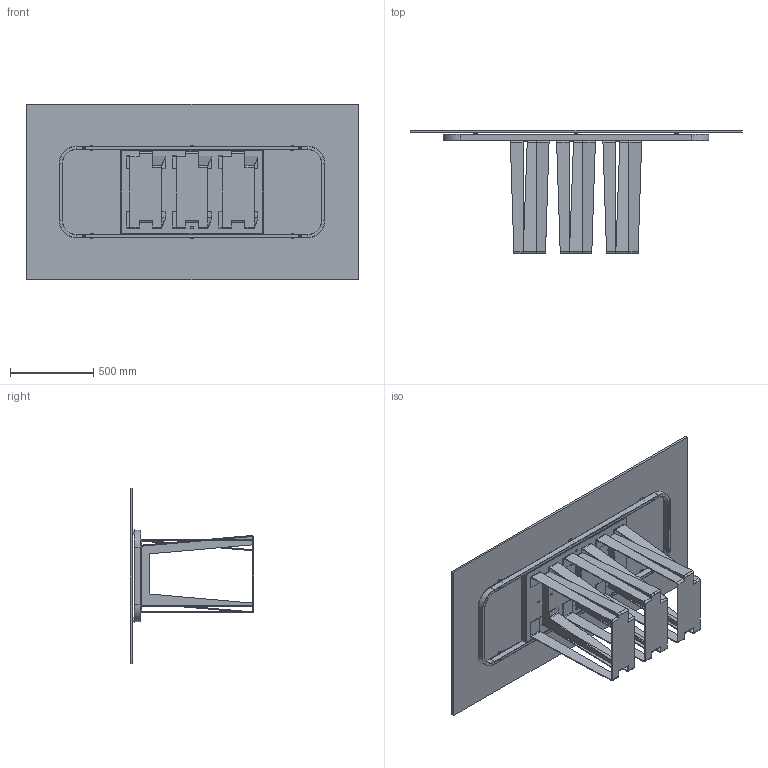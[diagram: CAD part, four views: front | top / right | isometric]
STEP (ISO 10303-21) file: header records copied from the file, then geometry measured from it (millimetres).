
FILE_DESCRIPTION (( 'STEP AP203' ), '1' );
FILE_NAME ('NA21G.STEP', '2024-08-07T14:37:12', ( '' ), ( '' ), 'SwSTEP 2.0', 'SolidWorks 2022', '' );
FILE_SCHEMA (( 'CONFIG_CONTROL_DESIGN' ));
Length unit declared in the file: millimetre
Products named in the file (8): M8xXXmm_M8x20mm; NA21G; TTAV01_02-01-VASSOIO IRRIGIDIMENTO TELAIO UNIVERSALE; NAB000000-00-NARCISO BASE SING. GREZZA; 434070-00-PIEDINO TPV GOMMA NERO D. 30x8max18; C2XCRXX-00-Piani Rettangolari Cristallo_21 2000x1060; TTAV01-01-TELAIO UNIVERSALE X TAVOLI 180 240cm; TTAV01_01-01-TELAIO UNIVERSALE X TAVOLI 180 240cm_Default<A macchina>
Assembly tree (19 placements, depth 3):
  NA21G
    C2XCRXX-00-Piani Rettangolari Cristallo_21 2000x1060
    434070-00-PIEDINO TPV GOMMA NERO D. 30x8max18  x6
    TTAV01-01-TELAIO UNIVERSALE X TAVOLI 180 240cm
      TTAV01_01-01-TELAIO UNIVERSALE X TAVOLI 180 240cm_Default<A macchina>
      TTAV01_02-01-VASSOIO IRRIGIDIMENTO TELAIO UNIVERSALE
    NAB000000-00-NARCISO BASE SING. GREZZA  x3
    M8xXXmm_M8x20mm  x6
Bounding box: 2000 x 742 x 1060 mm (x, y, z)
Volume: 37050154.3 mm3; surface area: 9227468.6 mm2
Topology: 34 solids, 34 shells, 1015 faces, 2467 edges, 1514 vertices
Faces by surface type: plane 549, cylinder 278, torus 80, cone 72, bspline 36
Entity records: 17480 total; most frequent: CARTESIAN_POINT 3159, DIRECTION 2808, ORIENTED_EDGE 2694, EDGE_CURVE 1347, AXIS2_PLACEMENT_3D 983, VERTEX_POINT 858, VECTOR 842, LINE 842
